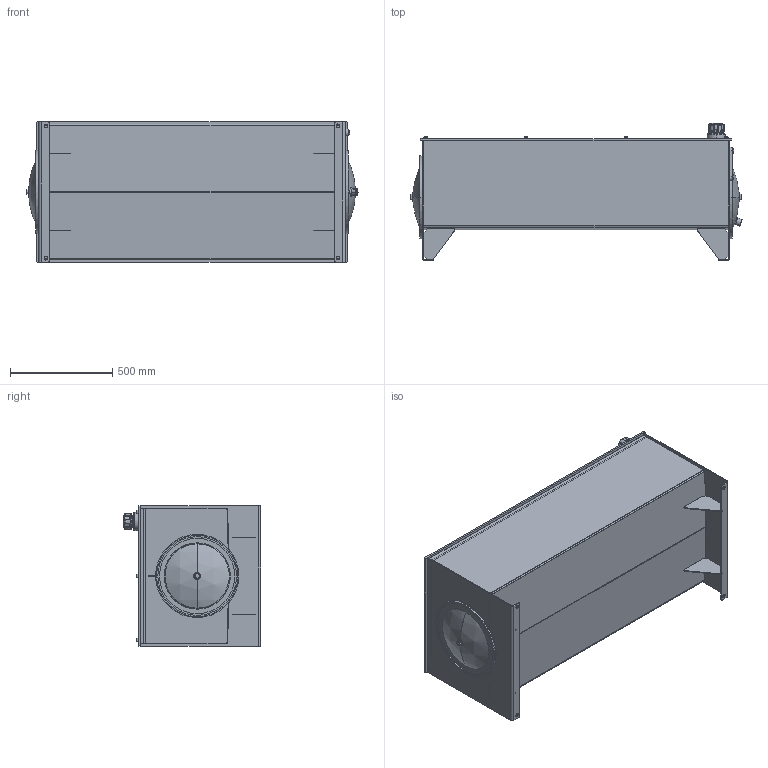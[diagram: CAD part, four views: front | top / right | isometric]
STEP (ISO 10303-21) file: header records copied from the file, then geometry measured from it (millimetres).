
FILE_DESCRIPTION (( 'STEP AP203' ), '1' );
FILE_NAME ('RJIC100-RT.STEP', '2015-01-08T15:45:38', ( '' ), ( '' ), 'SwSTEP 2.0', 'SolidWorks 2014', '' );
FILE_SCHEMA (( 'CONFIG_CONTROL_DESIGN' ));
Length unit declared in the file: inch
Products named in the file (1): RJIC100-RT
Bounding box: 1623.84 x 672.59 x 685.93 mm (x, y, z)
Volume: 25199246.5 mm3; surface area: 10691910.8 mm2
Topology: 47 solids, 47 shells, 1059 faces, 2417 edges, 1476 vertices
Faces by surface type: plane 402, cylinder 350, torus 123, cone 104, bspline 48, sphere 32
Entity records: 32836 total; most frequent: CARTESIAN_POINT 8402, DIRECTION 5406, ORIENTED_EDGE 4810, EDGE_CURVE 2405, AXIS2_PLACEMENT_3D 2137, VERTEX_POINT 1476, EDGE_LOOP 1213, LINE 1132
